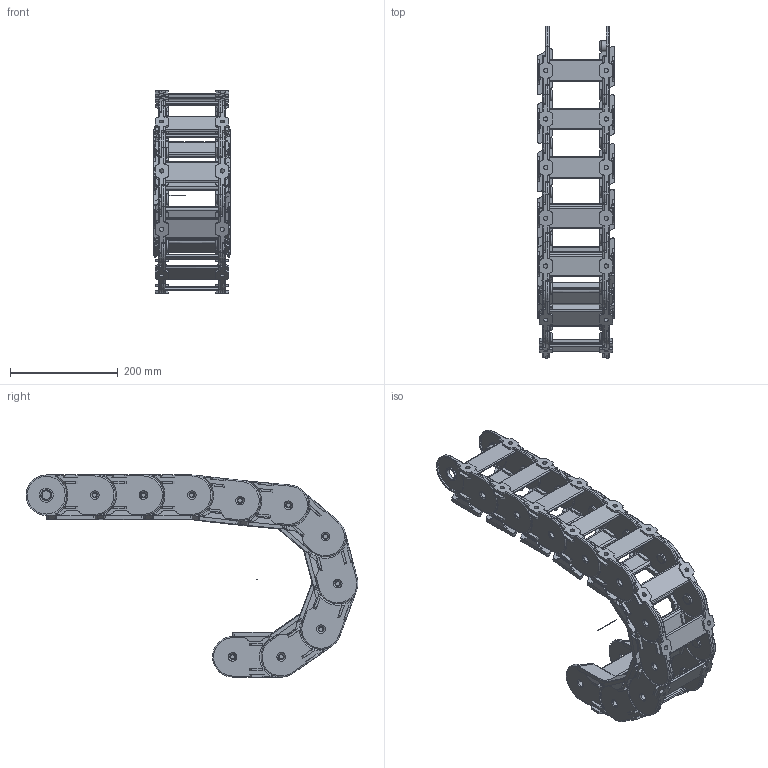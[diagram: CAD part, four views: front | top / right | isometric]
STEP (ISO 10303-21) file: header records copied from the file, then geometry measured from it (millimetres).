
FILE_DESCRIPTION((''),'2;1');
FILE_NAME('C:\Uebbing\TRACE PARTS\PKK\PKK 328\PKK 328 vereinfacht.stp','2013-06-10T11:14:19',('Uebbing'),(''),'Autodesk Inventor 10','Autodesk Inventor 10','');
FILE_SCHEMA(('AUTOMOTIVE_DESIGN { 1 0 10303 214 1 1 1 1 }'));
Length unit declared in the file: millimetre
Products named in the file (3): PKK 328 vereinfacht; Achse; PKK328 Glied vereinfacht
Assembly tree (11 placements, depth 2):
  PKK 328 vereinfacht
    Achse
    PKK328 Glied vereinfacht  x10
Bounding box: 142 x 615.52 x 375 mm (x, y, z)
Volume: 2131606.8 mm3; surface area: 890451.5 mm2
Topology: 11 solids, 11 shells, 2963 faces, 7724 edges, 4843 vertices
Faces by surface type: plane 1142, cylinder 921, bspline 580, torus 240, sphere 80
Full cylindrical faces by diameter (mm): 1 x1, 8 x20, 12 x20, 20 x20, 20.2 x20, 26 x40, 70 x40
Entity records: 11375 total; most frequent: CARTESIAN_POINT 4181, ORIENTED_EDGE 1472, DIRECTION 1440, EDGE_CURVE 736, AXIS2_PLACEMENT_3D 509, VERTEX_POINT 482, VECTOR 422, LINE 422
